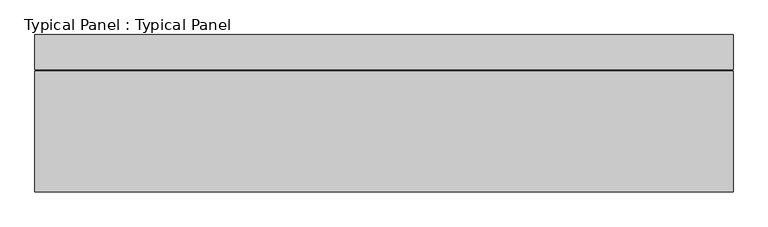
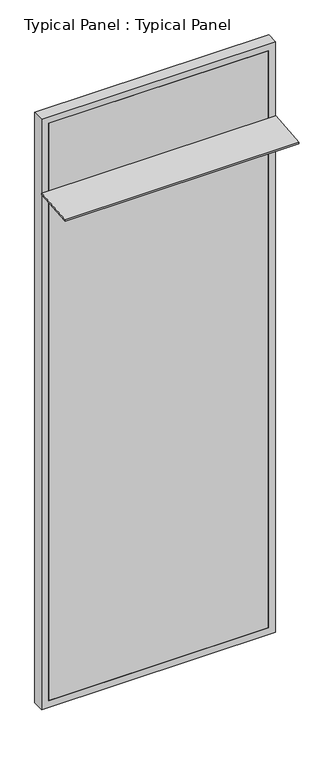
"""IFC4 building model written with IfcOpenShell, lengths in millimetres: plate geometry, Typical Panel : Typical Panel."""

from ifc_helpers import new_model, si_unit, frame, origin, place, context, project, spatial, polyline, outline, extrude, source, transform, mapped, element, save


def typical_panel_typical_panel_1fc3b25d(model_context):
    return source(origin(), model_context, "Body", "SweptSolid", [
        extrude(outline(polyline([(0.0, -260.0), (0.0, 0.0), (1500.0, 0.0), (1500.0, -260.0), (0.0, -260.0)])), frame((750.0, -263.1390641, 3467.3775599), z_axis=(0.0, -0.08715574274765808, 0.9961946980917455), x_axis=(-1.0, 0.0, 0.0)), (0.0, 0.0, 1.0), 10.0),
        extrude(outline(polyline([(0.0, -750.0), (0.0, 750.0), (4000.0, 750.0), (4000.0, -750.0), (0.0, -750.0)]), holes=[polyline([(45.0, 705.0), (45.0, -705.0), (3955.0, -705.0), (3955.0, 705.0), (45.0, 705.0)])]), frame((0.0, -1.5797986, 0.0), z_axis=(0.0, 1.0, 0.0), x_axis=(0.0, 0.0, 1.0)), (0.0, 0.0, 1.0), 75.0),
        extrude(outline(polyline([(705.0, -1.5797986), (-705.0, -1.5797986), (-705.0, 13.4202014), (705.0, 13.4202014), (705.0, -1.5797986)])), frame((0.0, 0.0, 45.0), z_axis=(0.0, 0.0, 1.0), x_axis=(1.0, 0.0, 0.0)), (0.0, 0.0, 1.0), 3910.0),
    ])


if __name__ == "__main__":
    model = new_model("IFC4")
    model_context = context("Model", 3, world=origin())
    ifc_project = project(units=[si_unit("LENGTHUNIT", "METRE", prefix="MILLI")], contexts=[model_context])
    site = spatial("IfcSite", under=ifc_project)
    building = spatial("IfcBuilding", under=site)
    placement = place(None, origin())
    typical_panel_typical_panel_shape = typical_panel_typical_panel_1fc3b25d(model_context)
    element("IfcPlate", 1, ObjectType="Typical Panel : Typical Panel", at=placement, inside=building, context=model_context, shape_type="MappedRepresentation", body=[
        mapped(typical_panel_typical_panel_shape, transform((0.0, 0.0, 0.0), x_axis=(1.0, 0.0, 0.0), y_axis=(0.0, 1.0, 0.0), z_axis=(0.0, 0.0, 1.0))),
    ])
    save(model, "model.ifc")
